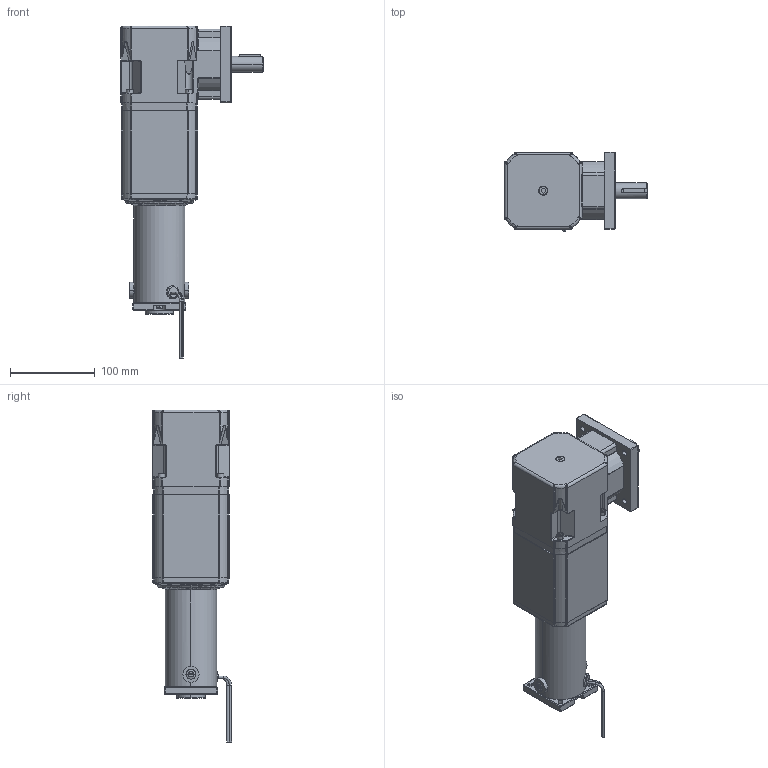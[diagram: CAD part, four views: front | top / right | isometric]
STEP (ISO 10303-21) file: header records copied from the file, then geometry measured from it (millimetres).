
FILE_DESCRIPTION (( 'STEP AP214' ), '1' );
FILE_NAME ('PM6015-RP7300_3S.STEP', '2013-08-28T18:32:59', ( '' ), ( '' ), 'SwSTEP 2.0', 'SolidWorks 2013', '' );
FILE_SCHEMA (( 'AUTOMOTIVE_DESIGN' ));
Length unit declared in the file: inch
Products named in the file (1): PM6015-RP7300_3S
Bounding box: 168.09 x 93.1 x 390.88 mm (x, y, z)
Surface area: 150740.5 mm2 (no closed solid volume)
Topology: 0 solids, 41 shells, 862 faces, 2586 edges, 1659 vertices
Faces by surface type: cylinder 338, plane 256, cone 93, bspline 91, torus 65, sphere 19
Entity records: 43934 total; most frequent: CARTESIAN_POINT 10485, DIRECTION 4825, ORIENTED_EDGE 4249, EDGE_CURVE 2524, AXIS2_PLACEMENT_3D 1842, VERTEX_POINT 1659, LINE 1141, VECTOR 1141
